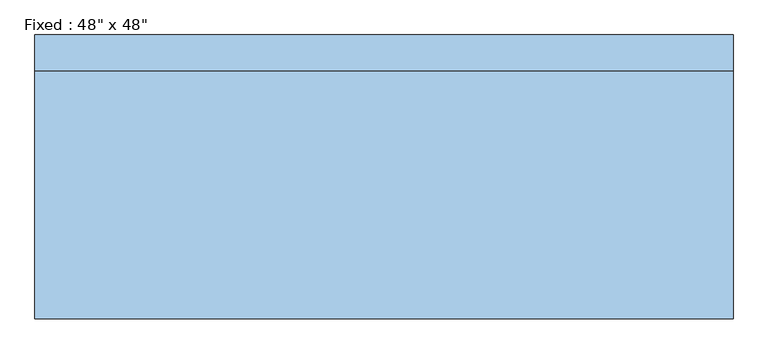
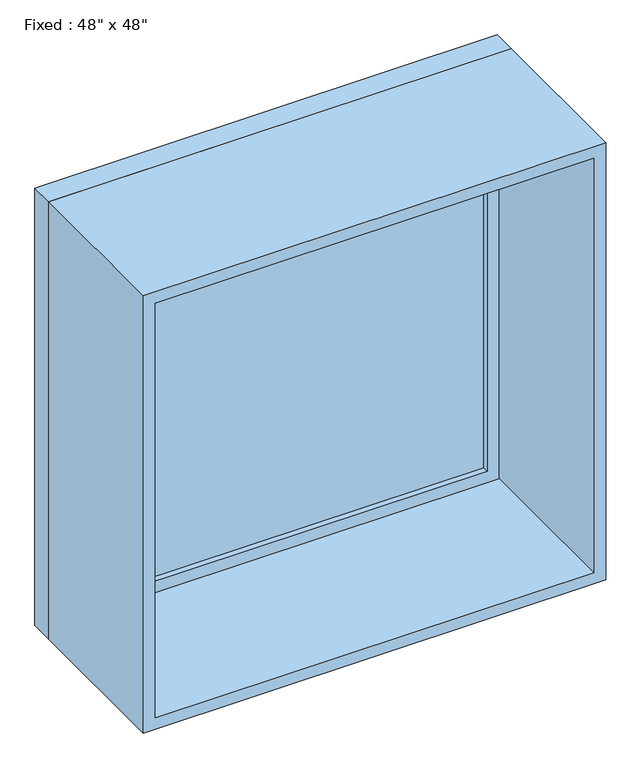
"""IFC4 building model written with IfcOpenShell, lengths in millimetres: window geometry."""

from ifc_helpers import new_model, si_unit, frame, origin, place, context, project, spatial, polyline, outline, extrude, source, transform, mapped, element, save


def window_d0035ecf(model_context):
    return source(origin(), model_context, "Body", "SweptSolid", [
        extrude(outline(polyline([(508.0, 200.025), (-584.2, 200.025), (-584.2, 212.725), (508.0, 212.725), (508.0, 200.025)])), frame((0.0, 0.0, 977.9), z_axis=(0.0, 0.0, 1.0), x_axis=(1.0, 0.0, 0.0)), (0.0, 0.0, 1.0), 1092.2),
        extrude(outline(polyline([(2114.55, -628.65), (933.45, -628.65), (933.45, 552.45), (2114.55, 552.45), (2114.55, -628.65)]), holes=[polyline([(2070.1, -584.2), (2070.1, 508.0), (977.9, 508.0), (977.9, -584.2), (2070.1, -584.2)])]), frame((0.0, 184.15, 0.0), z_axis=(0.0, 1.0, 0.0), x_axis=(0.0, 0.0, 1.0)), (0.0, 0.0, 1.0), 44.45),
        extrude(outline(polyline([(2133.6, -647.7), (914.4, -647.7), (914.4, 571.5), (2133.6, 571.5), (2133.6, -647.7)]), holes=[polyline([(2101.85, -615.95), (2101.85, 539.75), (946.15, 539.75), (946.15, -615.95), (2101.85, -615.95)])]), frame((0.0, -247.65, 0.0), z_axis=(0.0, 1.0, 0.0), x_axis=(0.0, 0.0, 1.0)), (0.0, 0.0, 1.0), 431.8),
        extrude(outline(polyline([(2133.6, 571.5), (2133.6, -647.7), (914.4, -647.7), (914.4, 571.5), (2133.6, 571.5)]), holes=[polyline([(2114.55, 552.45), (933.45, 552.45), (933.45, -628.65), (2114.55, -628.65), (2114.55, 552.45)])]), frame((0.0, 184.15, 0.0), z_axis=(0.0, 1.0, 0.0), x_axis=(0.0, 0.0, 1.0)), (0.0, 0.0, 1.0), 63.5),
    ])


if __name__ == "__main__":
    model = new_model("IFC4")
    model_context = context("Model", 3, world=origin())
    ifc_project = project(units=[si_unit("LENGTHUNIT", "METRE", prefix="MILLI")], contexts=[model_context])
    site = spatial("IfcSite", under=ifc_project)
    building = spatial("IfcBuilding", under=site)
    placement = place(None, origin())
    window_shape = window_d0035ecf(model_context)
    element("IfcWindow", 1, ObjectType="Fixed : 48\" x 48\"", at=placement, inside=building, context=model_context, shape_type="MappedRepresentation", body=[
        mapped(window_shape, transform((0.0, 0.0, 0.0), x_axis=(1.0, 0.0, 0.0), y_axis=(0.0, 1.0, 0.0), z_axis=(0.0, 0.0, 1.0))),
    ])
    save(model, "model.ifc")
